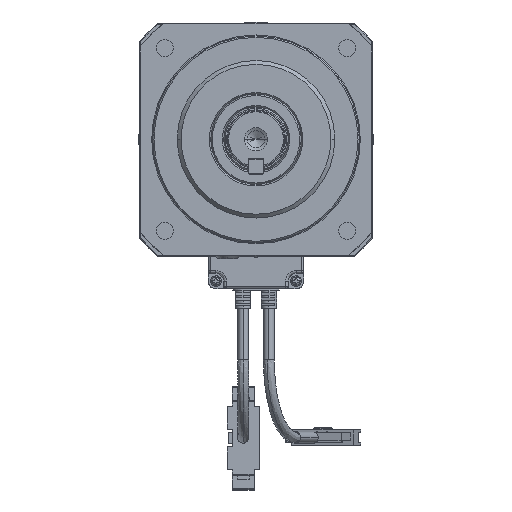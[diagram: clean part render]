
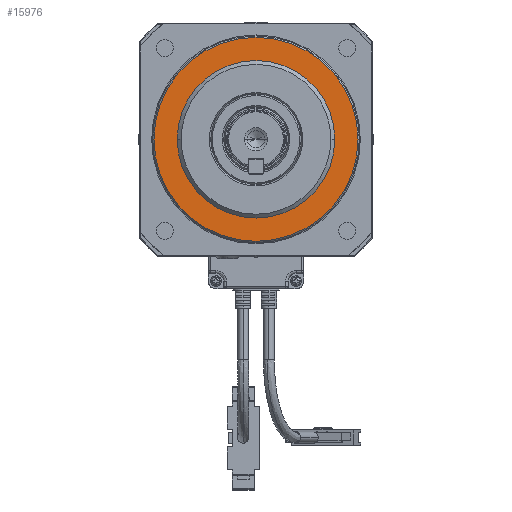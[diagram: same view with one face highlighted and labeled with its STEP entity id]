
A CAD part, top view. The second image highlights one B-rep face of the part: STEP entity #15976.
In plain terms, the highlighted planar face has unit normal (0, 0, 1).
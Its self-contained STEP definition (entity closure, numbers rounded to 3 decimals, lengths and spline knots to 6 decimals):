
#72 = EDGE_CURVE ( 'NONE', #8238, #8237, #20962, .T. ) ;
#73 = EDGE_CURVE ( 'NONE', #7939, #7936, #20965, .T. ) ;
#3143 = CARTESIAN_POINT ( 'NONE',  ( 0., 0., 0.009 ) ) ;
#3144 = DIRECTION ( 'NONE',  ( 0., 0., -1. ) ) ;
#3145 = DIRECTION ( 'NONE',  ( -1., 0., 0. ) ) ;
#3147 = CARTESIAN_POINT ( 'NONE',  ( 0., 0., 0.009 ) ) ;
#3149 = DIRECTION ( 'NONE',  ( 0., 0., 1. ) ) ;
#3150 = DIRECTION ( 'NONE',  ( 1., 0., 0. ) ) ;
#7936 = VERTEX_POINT ( 'NONE', #27070 ) ;
#7939 = VERTEX_POINT ( 'NONE', #27073 ) ;
#8237 = VERTEX_POINT ( 'NONE', #27371 ) ;
#8238 = VERTEX_POINT ( 'NONE', #27372 ) ;
#10633 = EDGE_CURVE ( 'NONE', #7936, #7939, #36463, .T. ) ;
#10987 = EDGE_CURVE ( 'NONE', #8237, #8238, #41034, .T. ) ;
#11031 = AXIS2_PLACEMENT_3D ( 'NONE', #3143, #3144, #3145 ) ;
#11032 = AXIS2_PLACEMENT_3D ( 'NONE', #3147, #3149, #3150 ) ;
#15976 = ADVANCED_FACE ( 'NONE', ( #41456, #41453 ), #43193, .T. ) ;
#20621 = EDGE_LOOP ( 'NONE', ( #28380, #28382 ) ) ;
#20634 = EDGE_LOOP ( 'NONE', ( #28376, #28378 ) ) ;
#20962 = CIRCLE ( 'NONE', #11031, 0.0305 ) ;
#20965 = CIRCLE ( 'NONE', #11032, 0.0395 ) ;
#27070 = CARTESIAN_POINT ( 'NONE',  ( 0.0395, 0., 0.009 ) ) ;
#27073 = CARTESIAN_POINT ( 'NONE',  ( -0.0395, 0., 0.009 ) ) ;
#27371 = CARTESIAN_POINT ( 'NONE',  ( -0.0305, 0., 0.009 ) ) ;
#27372 = CARTESIAN_POINT ( 'NONE',  ( 0.0305, 0., 0.009 ) ) ;
#28376 = ORIENTED_EDGE ( 'NONE', *, *, #73, .T. ) ;
#28378 = ORIENTED_EDGE ( 'NONE', *, *, #10633, .T. ) ;
#28380 = ORIENTED_EDGE ( 'NONE', *, *, #10987, .T. ) ;
#28382 = ORIENTED_EDGE ( 'NONE', *, *, #72, .T. ) ;
#36463 = CIRCLE ( 'NONE', #38507, 0.0395 ) ;
#38507 = AXIS2_PLACEMENT_3D ( 'NONE', #39887, #39888, #39889 ) ;
#38610 = AXIS2_PLACEMENT_3D ( 'NONE', #42237, #42238, #42239 ) ;
#38829 = AXIS2_PLACEMENT_3D ( 'NONE', #43185, #43195, #43196 ) ;
#39887 = CARTESIAN_POINT ( 'NONE',  ( 0., 0., 0.009 ) ) ;
#39888 = DIRECTION ( 'NONE',  ( 0., 0., 1. ) ) ;
#39889 = DIRECTION ( 'NONE',  ( 1., 0., 0. ) ) ;
#41034 = CIRCLE ( 'NONE', #38610, 0.0305 ) ;
#41453 = FACE_BOUND ( 'NONE', #20621, .T. ) ;
#41456 = FACE_OUTER_BOUND ( 'NONE', #20634, .T. ) ;
#42237 = CARTESIAN_POINT ( 'NONE',  ( 0., 0., 0.009 ) ) ;
#42238 = DIRECTION ( 'NONE',  ( 0., 0., -1. ) ) ;
#42239 = DIRECTION ( 'NONE',  ( -1., 0., 0. ) ) ;
#43185 = CARTESIAN_POINT ( 'NONE',  ( -0.04345, -0.04345, 0.009 ) ) ;
#43193 = PLANE ( 'NONE',  #38829 ) ;
#43195 = DIRECTION ( 'NONE',  ( 0., 0., 1. ) ) ;
#43196 = DIRECTION ( 'NONE',  ( 1., 0., 0. ) ) ;
